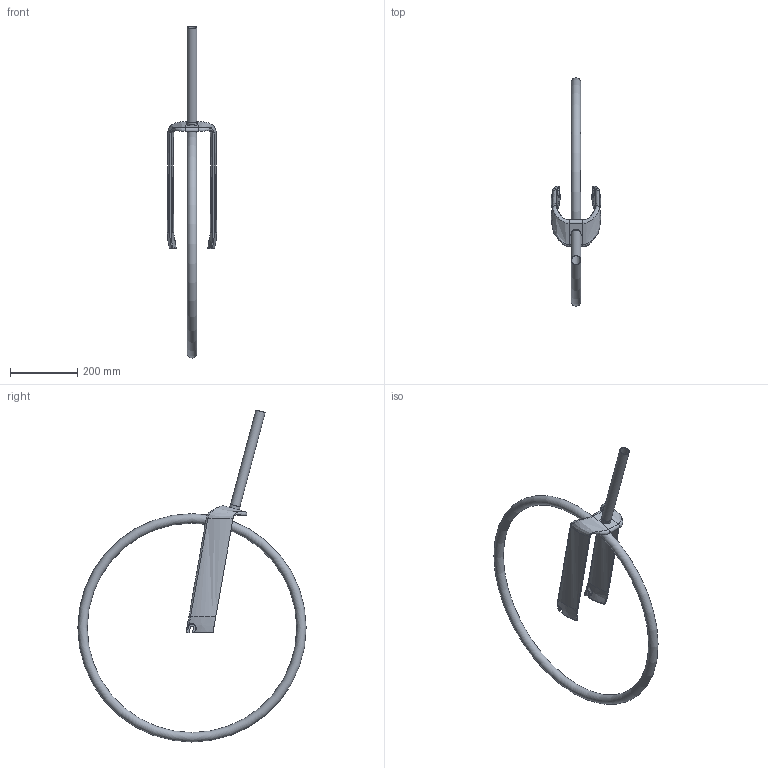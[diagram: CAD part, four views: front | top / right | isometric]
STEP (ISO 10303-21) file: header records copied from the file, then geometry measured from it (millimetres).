
FILE_DESCRIPTION(/* description */ (''),/* implementation_level */ '2;1');
FILE_NAME(/* name */ 'Non-Intigrated Headset Wide Fork.step',/* time_stamp */ '2026-07-06T21:15:17-07:00',/* author */ (''),/* organization */ (''),/* preprocessor_version */ 'ST-DEVELOPER v20.1',/* originating_system */ 'Autodesk Translation Framework v15.8.0.0',/* authorisation */ '');
FILE_SCHEMA (('AUTOMOTIVE_DESIGN { 1 0 10303 214 3 1 1 }'));
Length unit declared in the file: millimetre
Products named in the file (1): Non-Intigrated Headset Wide Fork
Bounding box: 146.63 x 678 x 985.97 mm (x, y, z)
Volume: 2278436.1 mm3; surface area: 379893.5 mm2
Topology: 2 solids, 2 shells, 83 faces, 217 edges, 139 vertices
Faces by surface type: bspline 40, plane 28, cylinder 14, torus 1
Full cylindrical faces by diameter (mm): 26 x1, 28.6 x1, 30 x1
Entity records: 5613 total; most frequent: CARTESIAN_POINT 3784, ORIENTED_EDGE 434, DIRECTION 281, EDGE_CURVE 217, VERTEX_POINT 139, AXIS2_PLACEMENT_3D 106, B_SPLINE_CURVE_WITH_KNOTS 86, EDGE_LOOP 86
